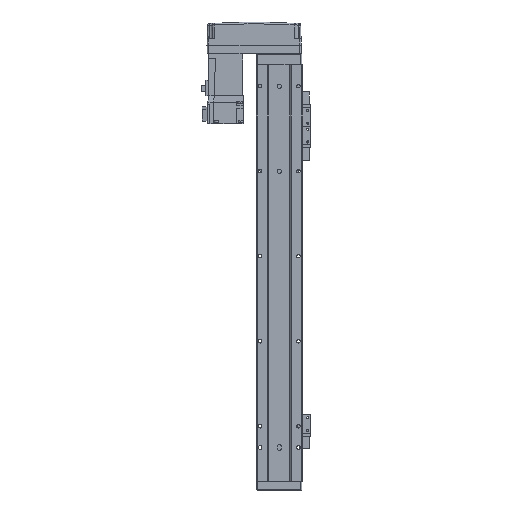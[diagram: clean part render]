
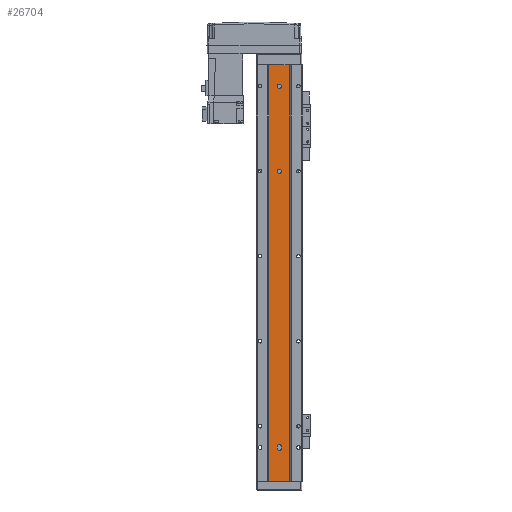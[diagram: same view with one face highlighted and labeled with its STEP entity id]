
A CAD part, front view. The second image highlights one B-rep face of the part: STEP entity #26704.
In plain terms, the highlighted planar face has unit normal (0, -1, 0).
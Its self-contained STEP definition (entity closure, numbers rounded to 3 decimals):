
#124 = VERTEX_POINT ( 'NONE', #38468 ) ;
#300 = CIRCLE ( 'NONE', #25046, 2.5 ) ;
#417 = EDGE_CURVE ( 'NONE', #35825, #4785, #25965, .T. ) ;
#613 = ORIENTED_EDGE ( 'NONE', *, *, #11685, .F. ) ;
#948 = ORIENTED_EDGE ( 'NONE', *, *, #15900, .T. ) ;
#1075 = EDGE_CURVE ( 'NONE', #9008, #22504, #38380, .T. ) ;
#1853 = VECTOR ( 'NONE', #9178, 1000. ) ;
#2208 = DIRECTION ( 'NONE',  ( 0., -1., 0. ) ) ;
#2600 = PLANE ( 'NONE',  #27434 ) ;
#3333 = CARTESIAN_POINT ( 'NONE',  ( 12.293, 1.5, -490. ) ) ;
#3613 = AXIS2_PLACEMENT_3D ( 'NONE', #32968, #12387, #15246 ) ;
#4261 = FACE_OUTER_BOUND ( 'NONE', #18664, .T. ) ;
#4647 = CARTESIAN_POINT ( 'NONE',  ( -2.5, 1.5, -451. ) ) ;
#4785 = VERTEX_POINT ( 'NONE', #28048 ) ;
#5083 = CARTESIAN_POINT ( 'NONE',  ( 12.293, 1.5, -490. ) ) ;
#5368 = CARTESIAN_POINT ( 'NONE',  ( -12.293, 1.5, 0. ) ) ;
#5728 = DIRECTION ( 'NONE',  ( 0., -1., 0. ) ) ;
#7045 = CARTESIAN_POINT ( 'NONE',  ( 12.293, 1.5, 0. ) ) ;
#8313 = CARTESIAN_POINT ( 'NONE',  ( 12.293, 1.5, -490. ) ) ;
#8622 = CARTESIAN_POINT ( 'NONE',  ( -2.5, 1.5, -449. ) ) ;
#8842 = CARTESIAN_POINT ( 'NONE',  ( -12.293, 1.5, -490. ) ) ;
#9008 = VERTEX_POINT ( 'NONE', #35801 ) ;
#9096 = EDGE_LOOP ( 'NONE', ( #613, #26243 ) ) ;
#9178 = DIRECTION ( 'NONE',  ( 0., 0., 1. ) ) ;
#9632 = AXIS2_PLACEMENT_3D ( 'NONE', #10938, #2208, #22994 ) ;
#10697 = EDGE_CURVE ( 'NONE', #124, #17539, #29120, .T. ) ;
#10938 = CARTESIAN_POINT ( 'NONE',  ( 0., 1.5, -25. ) ) ;
#10945 = DIRECTION ( 'NONE',  ( 1., 0., 0. ) ) ;
#11109 = DIRECTION ( 'NONE',  ( 0., -1., 0. ) ) ;
#11230 = CARTESIAN_POINT ( 'NONE',  ( 0., 1.5, -451. ) ) ;
#11685 = EDGE_CURVE ( 'NONE', #17539, #124, #300, .T. ) ;
#11754 = FACE_BOUND ( 'NONE', #9096, .T. ) ;
#12387 = DIRECTION ( 'NONE',  ( 0., -1., 0. ) ) ;
#12393 = EDGE_CURVE ( 'NONE', #20124, #15158, #21138, .T. ) ;
#12627 = CARTESIAN_POINT ( 'NONE',  ( 2.5, 1.5, -125. ) ) ;
#13296 = ORIENTED_EDGE ( 'NONE', *, *, #23042, .F. ) ;
#13619 = DIRECTION ( 'NONE',  ( 1., 0., 0. ) ) ;
#14228 = CARTESIAN_POINT ( 'NONE',  ( 12.293, 1.5, 0. ) ) ;
#14760 = DIRECTION ( 'NONE',  ( 1., 0., 0. ) ) ;
#15158 = VERTEX_POINT ( 'NONE', #14228 ) ;
#15246 = DIRECTION ( 'NONE',  ( 1., 0., 0. ) ) ;
#15287 = EDGE_CURVE ( 'NONE', #28053, #20124, #27934, .T. ) ;
#15900 = EDGE_CURVE ( 'NONE', #33692, #15158, #16303, .T. ) ;
#16303 = LINE ( 'NONE', #3333, #1853 ) ;
#16344 = DIRECTION ( 'NONE',  ( 0., -1., 0. ) ) ;
#17146 = VECTOR ( 'NONE', #23051, 1000. ) ;
#17295 = VECTOR ( 'NONE', #29609, 1000. ) ;
#17539 = VERTEX_POINT ( 'NONE', #12627 ) ;
#18176 = CARTESIAN_POINT ( 'NONE',  ( -2.5, 1.5, -25. ) ) ;
#18664 = EDGE_LOOP ( 'NONE', ( #19133, #19451, #25010, #948 ) ) ;
#18923 = DIRECTION ( 'NONE',  ( 1., 0., 0. ) ) ;
#19133 = ORIENTED_EDGE ( 'NONE', *, *, #12393, .F. ) ;
#19206 = ORIENTED_EDGE ( 'NONE', *, *, #29114, .F. ) ;
#19282 = VERTEX_POINT ( 'NONE', #8622 ) ;
#19451 = ORIENTED_EDGE ( 'NONE', *, *, #15287, .F. ) ;
#19496 = DIRECTION ( 'NONE',  ( 0., 0., -1. ) ) ;
#19905 = CIRCLE ( 'NONE', #36058, 2.5 ) ;
#20124 = VERTEX_POINT ( 'NONE', #5368 ) ;
#20555 = FACE_BOUND ( 'NONE', #23655, .T. ) ;
#20733 = LINE ( 'NONE', #25685, #36490 ) ;
#21138 = LINE ( 'NONE', #7045, #25271 ) ;
#21564 = VERTEX_POINT ( 'NONE', #30456 ) ;
#22504 = VERTEX_POINT ( 'NONE', #18176 ) ;
#22506 = EDGE_CURVE ( 'NONE', #21564, #19282, #19905, .T. ) ;
#22994 = DIRECTION ( 'NONE',  ( 1., 0., 0. ) ) ;
#23042 = EDGE_CURVE ( 'NONE', #4785, #21564, #23512, .T. ) ;
#23051 = DIRECTION ( 'NONE',  ( 1., 0., 0. ) ) ;
#23512 = LINE ( 'NONE', #34837, #29094 ) ;
#23655 = EDGE_LOOP ( 'NONE', ( #29501, #28787 ) ) ;
#24423 = AXIS2_PLACEMENT_3D ( 'NONE', #27966, #16344, #18923 ) ;
#24515 = EDGE_CURVE ( 'NONE', #22504, #9008, #28356, .T. ) ;
#24561 = LINE ( 'NONE', #5083, #17146 ) ;
#24791 = CARTESIAN_POINT ( 'NONE',  ( 0., 1.5, -449. ) ) ;
#25010 = ORIENTED_EDGE ( 'NONE', *, *, #28525, .T. ) ;
#25046 = AXIS2_PLACEMENT_3D ( 'NONE', #38300, #5728, #14760 ) ;
#25271 = VECTOR ( 'NONE', #33557, 1000. ) ;
#25685 = CARTESIAN_POINT ( 'NONE',  ( -2.5, 1.5, -490. ) ) ;
#25965 = CIRCLE ( 'NONE', #29026, 2.5 ) ;
#26167 = ORIENTED_EDGE ( 'NONE', *, *, #417, .F. ) ;
#26243 = ORIENTED_EDGE ( 'NONE', *, *, #10697, .F. ) ;
#26704 = ADVANCED_FACE ( 'NONE', ( #36762, #11754, #20555, #4261 ), #2600, .T. ) ;
#27434 = AXIS2_PLACEMENT_3D ( 'NONE', #8313, #28706, #10945 ) ;
#27934 = LINE ( 'NONE', #8842, #17295 ) ;
#27966 = CARTESIAN_POINT ( 'NONE',  ( 0., 1.5, -25. ) ) ;
#28048 = CARTESIAN_POINT ( 'NONE',  ( 2.5, 1.5, -451. ) ) ;
#28053 = VERTEX_POINT ( 'NONE', #37454 ) ;
#28235 = EDGE_LOOP ( 'NONE', ( #26167, #19206, #30521, #13296 ) ) ;
#28356 = CIRCLE ( 'NONE', #24423, 2.5 ) ;
#28525 = EDGE_CURVE ( 'NONE', #28053, #33692, #24561, .T. ) ;
#28706 = DIRECTION ( 'NONE',  ( 0., -1., 0. ) ) ;
#28787 = ORIENTED_EDGE ( 'NONE', *, *, #24515, .F. ) ;
#29019 = DIRECTION ( 'NONE',  ( 0., 0., 1. ) ) ;
#29026 = AXIS2_PLACEMENT_3D ( 'NONE', #11230, #11109, #13619 ) ;
#29094 = VECTOR ( 'NONE', #29019, 1000. ) ;
#29114 = EDGE_CURVE ( 'NONE', #19282, #35825, #20733, .T. ) ;
#29120 = CIRCLE ( 'NONE', #3613, 2.5 ) ;
#29501 = ORIENTED_EDGE ( 'NONE', *, *, #1075, .F. ) ;
#29609 = DIRECTION ( 'NONE',  ( 0., 0., 1. ) ) ;
#30379 = DIRECTION ( 'NONE',  ( 0., -1., 0. ) ) ;
#30456 = CARTESIAN_POINT ( 'NONE',  ( 2.5, 1.5, -449. ) ) ;
#30521 = ORIENTED_EDGE ( 'NONE', *, *, #22506, .F. ) ;
#31061 = CARTESIAN_POINT ( 'NONE',  ( 12.293, 1.5, -490. ) ) ;
#32968 = CARTESIAN_POINT ( 'NONE',  ( 0., 1.5, -125. ) ) ;
#33557 = DIRECTION ( 'NONE',  ( 1., 0., 0. ) ) ;
#33692 = VERTEX_POINT ( 'NONE', #31061 ) ;
#34837 = CARTESIAN_POINT ( 'NONE',  ( 2.5, 1.5, -490. ) ) ;
#35801 = CARTESIAN_POINT ( 'NONE',  ( 2.5, 1.5, -25. ) ) ;
#35825 = VERTEX_POINT ( 'NONE', #4647 ) ;
#36058 = AXIS2_PLACEMENT_3D ( 'NONE', #24791, #30379, #36437 ) ;
#36437 = DIRECTION ( 'NONE',  ( 1., 0., 0. ) ) ;
#36490 = VECTOR ( 'NONE', #19496, 1000. ) ;
#36762 = FACE_BOUND ( 'NONE', #28235, .T. ) ;
#37454 = CARTESIAN_POINT ( 'NONE',  ( -12.293, 1.5, -490. ) ) ;
#38300 = CARTESIAN_POINT ( 'NONE',  ( 0., 1.5, -125. ) ) ;
#38380 = CIRCLE ( 'NONE', #9632, 2.5 ) ;
#38468 = CARTESIAN_POINT ( 'NONE',  ( -2.5, 1.5, -125. ) ) ;
